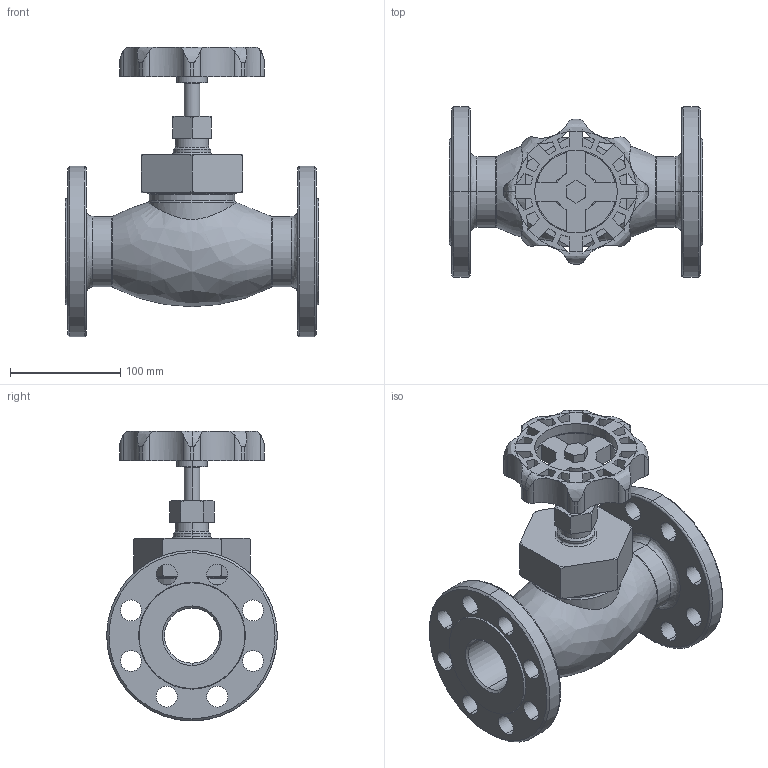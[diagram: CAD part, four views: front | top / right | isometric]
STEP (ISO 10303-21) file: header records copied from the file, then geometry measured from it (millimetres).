
FILE_DESCRIPTION( (''), '2;1');
FILE_NAME ('PC1027.9568.GLV-20F 50A_17821.stp','2025-07-28T11:42:24',(''),(''),'spGate 19.8.4 (****-****-****-****)','','');
FILE_SCHEMA (('AUTOMOTIVE_DESIGN'));
Length unit declared in the file: millimetre
Bounding box: 230 x 155 x 263.5 mm (x, y, z)
Volume: 1718712.3 mm3; surface area: 253478.2 mm2
Topology: 1 solids, 1 shells, 267 faces, 766 edges, 498 vertices
Faces by surface type: cylinder 129, plane 74, bspline 64
Entity records: 16206 total; most frequent: CARTESIAN_POINT 3674, ORIENTED_EDGE 1532, DIRECTION 1278, COLOUR_RGB 1034, PRESENTATION_STYLE_ASSIGNMENT 1034, STYLED_ITEM 1034, EDGE_CURVE 766, DRAUGHTING_PRE_DEFINED_CURVE_FONT 766
